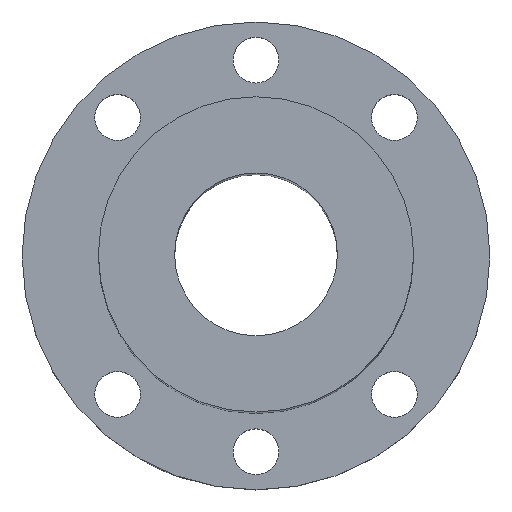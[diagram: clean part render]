
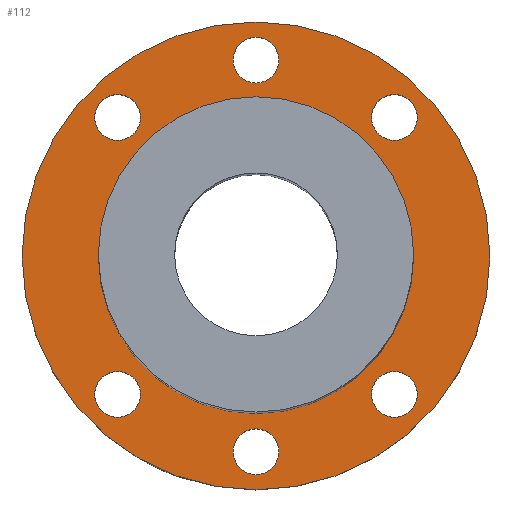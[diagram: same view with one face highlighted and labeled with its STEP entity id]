
A CAD part, top view. The second image highlights one B-rep face of the part: STEP entity #112.
In plain terms, the highlighted planar face has unit normal (0, 0, 1).
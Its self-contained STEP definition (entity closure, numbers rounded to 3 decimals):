
#99=PLANE('',#355);
#112=ADVANCED_FACE('',(#159,#160,#161,#162,#163,#164,#165,#166),#99,.T.);
#159=FACE_BOUND('',#203,.T.);
#160=FACE_BOUND('',#204,.T.);
#161=FACE_BOUND('',#205,.T.);
#162=FACE_BOUND('',#206,.T.);
#163=FACE_BOUND('',#207,.T.);
#164=FACE_BOUND('',#208,.T.);
#165=FACE_BOUND('',#209,.T.);
#166=FACE_BOUND('',#210,.T.);
#203=EDGE_LOOP('',(#247));
#204=EDGE_LOOP('',(#248));
#205=EDGE_LOOP('',(#249));
#206=EDGE_LOOP('',(#250));
#207=EDGE_LOOP('',(#251));
#208=EDGE_LOOP('',(#252));
#209=EDGE_LOOP('',(#253));
#210=EDGE_LOOP('',(#254));
#247=ORIENTED_EDGE('',*,*,#284,.T.);
#248=ORIENTED_EDGE('',*,*,#301,.F.);
#249=ORIENTED_EDGE('',*,*,#300,.T.);
#250=ORIENTED_EDGE('',*,*,#286,.T.);
#251=ORIENTED_EDGE('',*,*,#299,.F.);
#252=ORIENTED_EDGE('',*,*,#298,.T.);
#253=ORIENTED_EDGE('',*,*,#297,.F.);
#254=ORIENTED_EDGE('',*,*,#302,.T.);
#262=VERTEX_POINT('',#437);
#264=VERTEX_POINT('',#499);
#275=VERTEX_POINT('',#582);
#276=VERTEX_POINT('',#585);
#277=VERTEX_POINT('',#588);
#278=VERTEX_POINT('',#591);
#279=VERTEX_POINT('',#594);
#280=VERTEX_POINT('',#597);
#284=EDGE_CURVE('',#262,#262,#306,.T.);
#286=EDGE_CURVE('',#264,#264,#307,.T.);
#297=EDGE_CURVE('',#275,#275,#317,.T.);
#298=EDGE_CURVE('',#276,#276,#318,.T.);
#299=EDGE_CURVE('',#277,#277,#319,.T.);
#300=EDGE_CURVE('',#278,#278,#320,.T.);
#301=EDGE_CURVE('',#279,#279,#321,.T.);
#302=EDGE_CURVE('',#280,#280,#322,.T.);
#306=CIRCLE('',#327,46.);
#307=CIRCLE('',#329,31.);
#317=CIRCLE('',#343,4.5);
#318=CIRCLE('',#345,4.5);
#319=CIRCLE('',#347,4.5);
#320=CIRCLE('',#349,4.5);
#321=CIRCLE('',#351,4.5);
#322=CIRCLE('',#353,4.5);
#327=AXIS2_PLACEMENT_3D('',#436,#365,#366);
#329=AXIS2_PLACEMENT_3D('',#498,#369,#370);
#343=AXIS2_PLACEMENT_3D('',#581,#397,#398);
#345=AXIS2_PLACEMENT_3D('',#584,#401,#402);
#347=AXIS2_PLACEMENT_3D('',#587,#405,#406);
#349=AXIS2_PLACEMENT_3D('',#590,#409,#410);
#351=AXIS2_PLACEMENT_3D('',#593,#413,#414);
#353=AXIS2_PLACEMENT_3D('',#596,#417,#418);
#355=AXIS2_PLACEMENT_3D('',#599,#421,#422);
#365=DIRECTION('',(0.,0.,1.));
#366=DIRECTION('',(1.,0.,0.));
#369=DIRECTION('',(0.,0.,-1.));
#370=DIRECTION('',(1.,0.,0.));
#397=DIRECTION('',(0.,0.,1.));
#398=DIRECTION('',(1.,0.,0.));
#401=DIRECTION('',(0.,0.,-1.));
#402=DIRECTION('',(-1.,0.,0.));
#405=DIRECTION('',(0.,0.,1.));
#406=DIRECTION('',(-1.,0.,0.));
#409=DIRECTION('',(0.,0.,-1.));
#410=DIRECTION('',(1.,0.,0.));
#413=DIRECTION('',(0.,0.,1.));
#414=DIRECTION('',(1.,0.,0.));
#417=DIRECTION('',(0.,0.,-1.));
#418=DIRECTION('',(1.,0.,0.));
#421=DIRECTION('',(0.,0.,1.));
#422=DIRECTION('',(1.,0.,0.));
#436=CARTESIAN_POINT('',(0.,0.,14.));
#437=CARTESIAN_POINT('',(46.,0.,14.));
#498=CARTESIAN_POINT('',(0.,0.,14.));
#499=CARTESIAN_POINT('',(31.,0.,14.));
#581=CARTESIAN_POINT('',(0.,38.5,14.));
#582=CARTESIAN_POINT('',(4.5,38.5,14.));
#584=CARTESIAN_POINT('',(27.224,27.224,14.));
#585=CARTESIAN_POINT('',(22.724,27.224,14.));
#587=CARTESIAN_POINT('',(27.224,-27.224,14.));
#588=CARTESIAN_POINT('',(22.724,-27.224,14.));
#590=CARTESIAN_POINT('',(-27.224,-27.224,14.));
#591=CARTESIAN_POINT('',(-22.724,-27.224,14.));
#593=CARTESIAN_POINT('',(-27.224,27.224,14.));
#594=CARTESIAN_POINT('',(-22.724,27.224,14.));
#596=CARTESIAN_POINT('',(0.,-38.5,14.));
#597=CARTESIAN_POINT('',(4.5,-38.5,14.));
#599=CARTESIAN_POINT('',(-13.612,13.612,14.));
